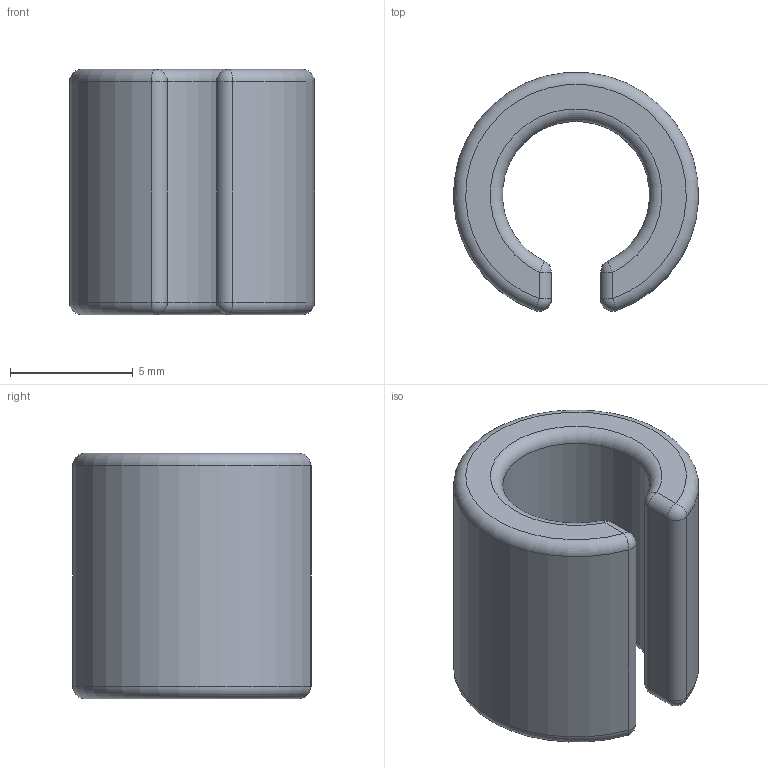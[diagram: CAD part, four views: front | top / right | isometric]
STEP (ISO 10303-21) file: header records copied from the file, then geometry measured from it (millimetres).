
FILE_DESCRIPTION (( 'STEP AP214' ), '1' );
FILE_NAME ('3800.STEP', '2024-06-17T20:24:27', ( '' ), ( '' ), 'SwSTEP 2.0', 'SolidWorks 2022', '' );
FILE_SCHEMA (( 'AUTOMOTIVE_DESIGN' ));
Length unit declared in the file: millimetre
Products named in the file (1): 3800
Bounding box: 9.99 x 9.72 x 10 mm (x, y, z)
Volume: 454.5 mm3; surface area: 564.6 mm2
Topology: 1 solids, 1 shells, 26 faces, 56 edges, 28 vertices
Faces by surface type: cylinder 10, sphere 8, plane 4, torus 4
Entity records: 666 total; most frequent: DIRECTION 134, CARTESIAN_POINT 99, ORIENTED_EDGE 96, AXIS2_PLACEMENT_3D 59, EDGE_CURVE 48, CIRCLE 32, ADVANCED_FACE 26, EDGE_LOOP 26
